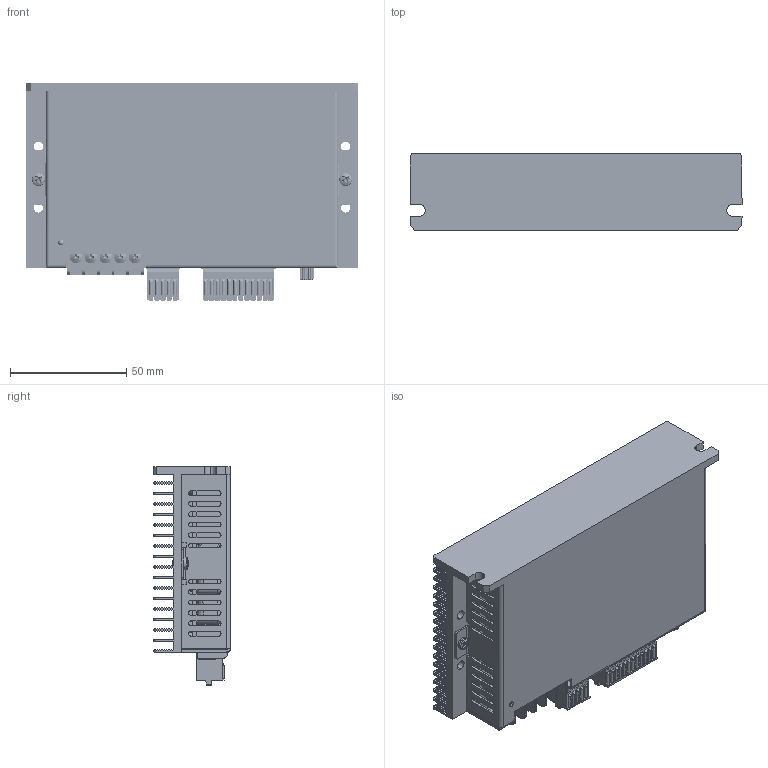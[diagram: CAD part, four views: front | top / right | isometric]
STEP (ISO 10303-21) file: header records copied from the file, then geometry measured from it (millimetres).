
FILE_DESCRIPTION (( 'STEP AP203' ), '1' );
FILE_NAME ('奻菁蚾饜极.STEP', '2024-08-13T08:02:59', ( 'dell' ), ( '' ), 'SwSTEP 2.0', 'SolidWorks 2019', '' );
FILE_SCHEMA (( 'CONFIG_CONTROL_DESIGN' ));
Products named in the file (1): 奻菁蚾饜极
Bounding box: 143 x 33 x 94.26 mm (x, y, z)
Surface area: 123886.9 mm2 (no closed solid volume)
Topology: 0 solids, 129 shells, 8252 faces, 22075 edges, 14310 vertices
Faces by surface type: plane 4931, cylinder 1658, bspline 1455, cone 106, torus 88, sphere 14
Entity records: 338782 total; most frequent: CARTESIAN_POINT 144989, ORIENTED_EDGE 43904, DIRECTION 34237, EDGE_CURVE 21957, VECTOR 14965, LINE 14965, VERTEX_POINT 14300, AXIS2_PLACEMENT_3D 9636
